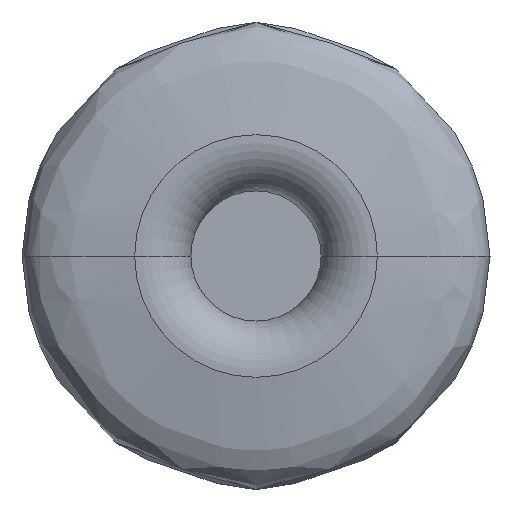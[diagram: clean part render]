
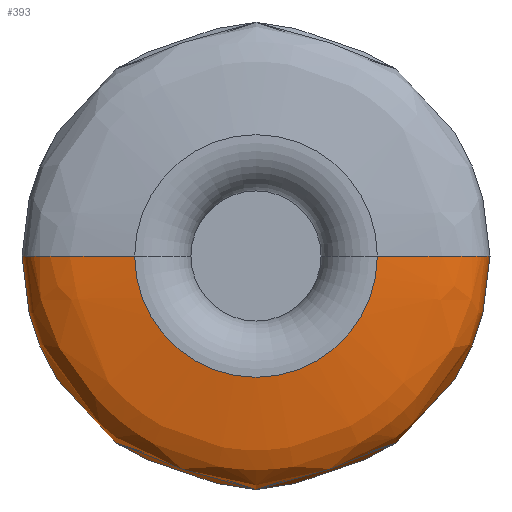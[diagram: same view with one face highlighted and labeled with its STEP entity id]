
A CAD part, front view. The second image highlights one B-rep face of the part: STEP entity #393.
In plain terms, the highlighted free-form (B-spline) face has degree [3, 3] with [6, 4] control points.
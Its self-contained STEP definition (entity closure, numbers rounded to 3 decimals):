
#37 = AXIS2_PLACEMENT_3D ( 'NONE', #391, #2832, #844 ) ;
#75 = CIRCLE ( 'NONE', #1649, 25. ) ;
#84 = FACE_OUTER_BOUND ( 'NONE', #2772, .T. ) ;
#140 = B_SPLINE_CURVE_WITH_KNOTS ( 'NONE', 3,
 ( #398, #1753, #186, #169, #2180, #2413 ),
 .UNSPECIFIED., .F., .F.,
 ( 4, 1, 1, 4 ),
 ( 0.114, 0.481, 0.581, 0.953 ),
 .UNSPECIFIED. ) ;
#169 = CARTESIAN_POINT ( 'NONE',  ( -90.23, -15.337, 0. ) ) ;
#186 = CARTESIAN_POINT ( 'NONE',  ( -89.896, -35.137, 0. ) ) ;
#223 = ORIENTED_EDGE ( 'NONE', *, *, #1591, .T. ) ;
#243 = CARTESIAN_POINT ( 'NONE',  ( 0., -48.43, 0. ) ) ;
#275 = EDGE_CURVE ( 'NONE', #466, #2329, #140, .T. ) ;
#318 = CARTESIAN_POINT ( 'NONE',  ( 25., 0.426, 0. ) ) ;
#352 = CARTESIAN_POINT ( 'NONE',  ( -85.104, -45.175, -170.209 ) ) ;
#370 = CARTESIAN_POINT ( 'NONE',  ( -83.792, -0.004, -167.583 ) ) ;
#381 = CARTESIAN_POINT ( 'NONE',  ( 25., 0.426, -50. ) ) ;
#391 = CARTESIAN_POINT ( 'NONE',  ( 0., 0.426, 0. ) ) ;
#393 = ADVANCED_FACE ( 'NONE', ( #84 ), #2655, .F. ) ;
#398 = CARTESIAN_POINT ( 'NONE',  ( -46.63, -48.43, 0. ) ) ;
#409 = ORIENTED_EDGE ( 'NONE', *, *, #2231, .F. ) ;
#459 = CARTESIAN_POINT ( 'NONE',  ( 0., 0.426, -25. ) ) ;
#466 = VERTEX_POINT ( 'NONE', #1997 ) ;
#472 = AXIS2_PLACEMENT_3D ( 'NONE', #243, #1622, #1376 ) ;
#536 = VERTEX_POINT ( 'NONE', #459 ) ;
#586 = CARTESIAN_POINT ( 'NONE',  ( 46.63, -48.43, -93.259 ) ) ;
#668 = ORIENTED_EDGE ( 'NONE', *, *, #275, .T. ) ;
#773 = CARTESIAN_POINT ( 'NONE',  ( 0., 0.426, 0. ) ) ;
#784 = ORIENTED_EDGE ( 'NONE', *, *, #1803, .T. ) ;
#788 = CARTESIAN_POINT ( 'NONE',  ( 90.23, -15.337, 0. ) ) ;
#819 = CARTESIAN_POINT ( 'NONE',  ( -90.23, -15.337, 0. ) ) ;
#826 = VERTEX_POINT ( 'NONE', #1447 ) ;
#844 = DIRECTION ( 'NONE',  ( -1., 0., 0. ) ) ;
#1013 = CARTESIAN_POINT ( 'NONE',  ( 89.896, -35.137, 0. ) ) ;
#1028 = CARTESIAN_POINT ( 'NONE',  ( 89.896, -35.137, -179.793 ) ) ;
#1049 = CARTESIAN_POINT ( 'NONE',  ( 25., 0.426, 0. ) ) ;
#1218 = CIRCLE ( 'NONE', #472, 46.63 ) ;
#1261 = CARTESIAN_POINT ( 'NONE',  ( 83.792, -0.004, -167.583 ) ) ;
#1275 = CARTESIAN_POINT ( 'NONE',  ( -83.792, -0.004, 0. ) ) ;
#1284 = CARTESIAN_POINT ( 'NONE',  ( -85.104, -45.175, 0. ) ) ;
#1295 = CARTESIAN_POINT ( 'NONE',  ( -89.896, -35.137, 0. ) ) ;
#1366 = CARTESIAN_POINT ( 'NONE',  ( 46.63, -48.43, 0. ) ) ;
#1376 = DIRECTION ( 'NONE',  ( -1., 0., 0. ) ) ;
#1447 = CARTESIAN_POINT ( 'NONE',  ( 25., 0.426, 0. ) ) ;
#1488 = EDGE_CURVE ( 'NONE', #2329, #536, #75, .T. ) ;
#1492 = CARTESIAN_POINT ( 'NONE',  ( 46.63, -48.43, 0. ) ) ;
#1510 = CARTESIAN_POINT ( 'NONE',  ( -25., 0.426, 0. ) ) ;
#1591 = EDGE_CURVE ( 'NONE', #536, #826, #2242, .T. ) ;
#1622 = DIRECTION ( 'NONE',  ( 0., 1., 0. ) ) ;
#1649 = AXIS2_PLACEMENT_3D ( 'NONE', #773, #2337, #2562 ) ;
#1704 = CARTESIAN_POINT ( 'NONE',  ( 85.104, -45.175, 0. ) ) ;
#1717 = CARTESIAN_POINT ( 'NONE',  ( 85.104, -45.175, 0. ) ) ;
#1726 = CARTESIAN_POINT ( 'NONE',  ( 85.104, -45.175, -170.209 ) ) ;
#1736 = CARTESIAN_POINT ( 'NONE',  ( 46.63, -48.43, 0. ) ) ;
#1747 = CARTESIAN_POINT ( 'NONE',  ( -89.896, -35.137, -179.793 ) ) ;
#1753 = CARTESIAN_POINT ( 'NONE',  ( -85.104, -45.175, 0. ) ) ;
#1803 = EDGE_CURVE ( 'NONE', #1839, #466, #1218, .T. ) ;
#1839 = VERTEX_POINT ( 'NONE', #1366 ) ;
#1920 = CARTESIAN_POINT ( 'NONE',  ( 83.792, -0.004, 0. ) ) ;
#1961 = ORIENTED_EDGE ( 'NONE', *, *, #1488, .T. ) ;
#1970 = CARTESIAN_POINT ( 'NONE',  ( -25., 0.426, -50. ) ) ;
#1997 = CARTESIAN_POINT ( 'NONE',  ( -46.63, -48.43, 0. ) ) ;
#2148 = CARTESIAN_POINT ( 'NONE',  ( 83.792, -0.004, 0. ) ) ;
#2175 = CARTESIAN_POINT ( 'NONE',  ( 90.23, -15.337, 0. ) ) ;
#2180 = CARTESIAN_POINT ( 'NONE',  ( -83.792, -0.004, 0. ) ) ;
#2231 = EDGE_CURVE ( 'NONE', #1839, #826, #2372, .T. ) ;
#2242 = CIRCLE ( 'NONE', #37, 25. ) ;
#2329 = VERTEX_POINT ( 'NONE', #1510 ) ;
#2337 = DIRECTION ( 'NONE',  ( 0., -1., 0. ) ) ;
#2367 = CARTESIAN_POINT ( 'NONE',  ( -46.63, -48.43, -93.259 ) ) ;
#2372 = B_SPLINE_CURVE_WITH_KNOTS ( 'NONE', 3,
 ( #1492, #1704, #1013, #788, #1920, #318 ),
 .UNSPECIFIED., .F., .F.,
 ( 4, 1, 1, 4 ),
 ( 0.114, 0.481, 0.581, 0.953 ),
 .UNSPECIFIED. ) ;
#2383 = CARTESIAN_POINT ( 'NONE',  ( -46.63, -48.43, 0. ) ) ;
#2413 = CARTESIAN_POINT ( 'NONE',  ( -25., 0.426, 0. ) ) ;
#2562 = DIRECTION ( 'NONE',  ( -1., 0., 0. ) ) ;
#2583 = CARTESIAN_POINT ( 'NONE',  ( 90.23, -15.337, -180.461 ) ) ;
#2609 = CARTESIAN_POINT ( 'NONE',  ( -25., 0.426, 0. ) ) ;
#2655 =( BOUNDED_SURFACE ( )  B_SPLINE_SURFACE ( 3, 3, ( 
 ( #1736, #586, #2367, #2383 ),
 ( #1717, #1726, #352, #1284 ),
 ( #2836, #1028, #1747, #1295 ),
 ( #2175, #2583, #2846, #819 ),
 ( #2148, #1261, #370, #1275 ),
 ( #1049, #381, #1970, #2609 ) ),
 .UNSPECIFIED., .F., .F., .F. ) 
 B_SPLINE_SURFACE_WITH_KNOTS ( ( 4, 1, 1, 4 ),
 ( 4, 4 ),
 ( 0.114, 0.481, 0.581, 0.953 ),
 ( 0., 1. ),
 .UNSPECIFIED. ) 
 GEOMETRIC_REPRESENTATION_ITEM ( )  RATIONAL_B_SPLINE_SURFACE ( (
 ( 1., 0.333, 0.333, 1.),
 ( 1., 0.333, 0.333, 1.),
 ( 1., 0.333, 0.333, 1.),
 ( 1., 0.333, 0.333, 1.),
 ( 1., 0.333, 0.333, 1.),
 ( 1., 0.333, 0.333, 1.) ) ) 
 REPRESENTATION_ITEM ( '' )  SURFACE ( )  );
#2772 = EDGE_LOOP ( 'NONE', ( #784, #668, #1961, #223, #409 ) ) ;
#2832 = DIRECTION ( 'NONE',  ( 0., -1., 0. ) ) ;
#2836 = CARTESIAN_POINT ( 'NONE',  ( 89.896, -35.137, 0. ) ) ;
#2846 = CARTESIAN_POINT ( 'NONE',  ( -90.23, -15.337, -180.461 ) ) ;
